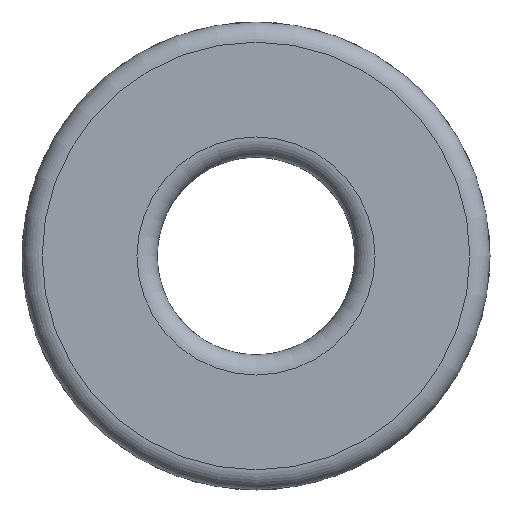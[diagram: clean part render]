
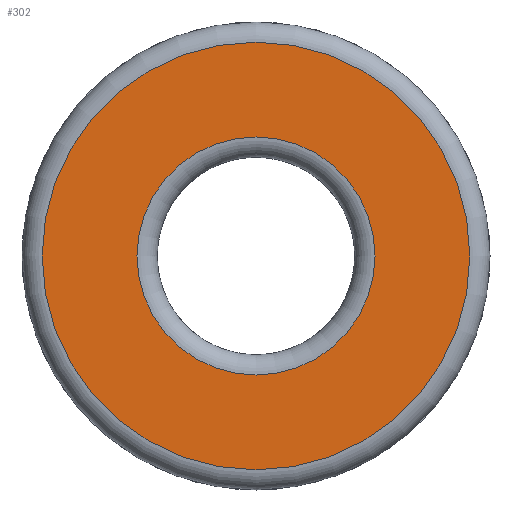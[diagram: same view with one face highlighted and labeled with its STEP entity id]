
A CAD part, front view. The second image highlights one B-rep face of the part: STEP entity #302.
In plain terms, the highlighted planar face has unit normal (0, -1, 0).
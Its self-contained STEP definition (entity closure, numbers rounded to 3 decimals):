
#44=FACE_BOUND('',#76,.T.);
#55=FACE_OUTER_BOUND('',#75,.T.);
#75=EDGE_LOOP('',(#220,#221));
#76=EDGE_LOOP('',(#222,#223));
#101=CIRCLE('',#350,10.6);
#102=CIRCLE('',#351,10.6);
#105=CIRCLE('',#356,5.9);
#106=CIRCLE('',#357,5.9);
#132=VERTEX_POINT('',#523);
#133=VERTEX_POINT('',#525);
#136=VERTEX_POINT('',#535);
#137=VERTEX_POINT('',#536);
#164=EDGE_CURVE('',#132,#133,#101,.T.);
#165=EDGE_CURVE('',#133,#132,#102,.T.);
#169=EDGE_CURVE('',#136,#137,#105,.T.);
#170=EDGE_CURVE('',#137,#136,#106,.T.);
#220=ORIENTED_EDGE('',*,*,#165,.F.);
#221=ORIENTED_EDGE('',*,*,#164,.F.);
#222=ORIENTED_EDGE('',*,*,#169,.F.);
#223=ORIENTED_EDGE('',*,*,#170,.F.);
#272=PLANE('',#355);
#302=ADVANCED_FACE('',(#55,#44),#272,.T.);
#350=AXIS2_PLACEMENT_3D('',#526,#422,#423);
#351=AXIS2_PLACEMENT_3D('',#527,#424,#425);
#355=AXIS2_PLACEMENT_3D('',#534,#433,#434);
#356=AXIS2_PLACEMENT_3D('',#537,#435,#436);
#357=AXIS2_PLACEMENT_3D('',#538,#437,#438);
#422=DIRECTION('center_axis',(0.,1.,0.));
#423=DIRECTION('ref_axis',(0.,0.,-1.));
#424=DIRECTION('center_axis',(0.,1.,0.));
#425=DIRECTION('ref_axis',(0.,0.,-1.));
#433=DIRECTION('center_axis',(0.,-1.,0.));
#434=DIRECTION('ref_axis',(0.,0.,-1.));
#435=DIRECTION('center_axis',(0.,-1.,0.));
#436=DIRECTION('ref_axis',(0.,0.,
-1.));
#437=DIRECTION('center_axis',(0.,-1.,0.));
#438=DIRECTION('ref_axis',(0.,0.,
-1.));
#523=CARTESIAN_POINT('',(4.9,0.,-10.6));
#525=CARTESIAN_POINT('',(4.9,0.,10.6));
#526=CARTESIAN_POINT('Origin',(4.9,0.,0.));
#527=CARTESIAN_POINT('Origin',(4.9,0.,0.));
#534=CARTESIAN_POINT('Origin',(4.9,0.,-8.25));
#535=CARTESIAN_POINT('',(4.9,0.,5.9));
#536=CARTESIAN_POINT('',(4.9,0.,-5.9));
#537=CARTESIAN_POINT('Origin',(4.9,0.,0.));
#538=CARTESIAN_POINT('Origin',(4.9,0.,0.));
